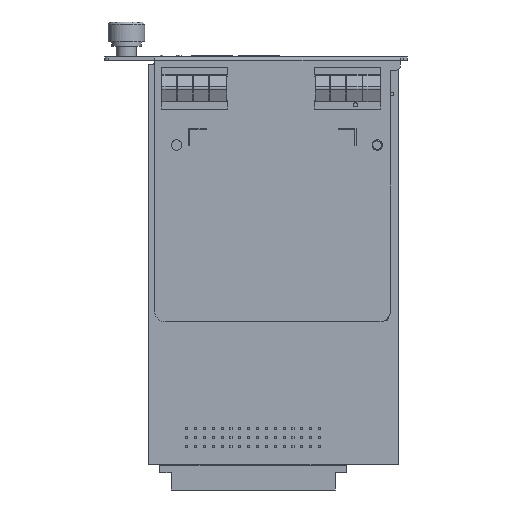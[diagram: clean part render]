
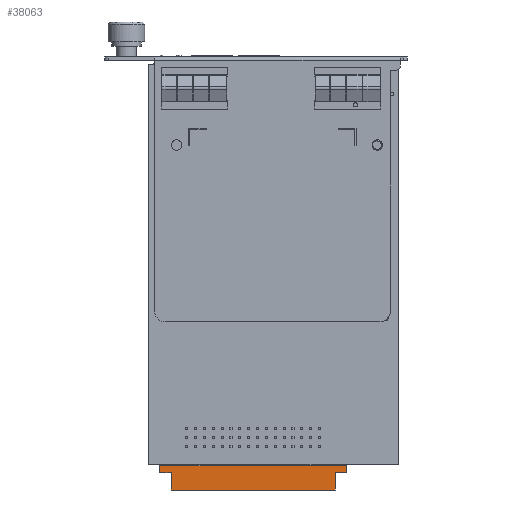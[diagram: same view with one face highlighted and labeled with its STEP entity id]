
A CAD part, front view. The second image highlights one B-rep face of the part: STEP entity #38063.
In plain terms, the highlighted planar face has unit normal (0, -1, 0).
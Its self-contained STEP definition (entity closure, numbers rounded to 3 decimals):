
#8948=DIRECTION('',(0.,0.,1.));
#8949=VECTOR('',#8948,2.1);
#8950=CARTESIAN_POINT('',(20.925,0.3,-58.6));
#8951=LINE('',#8950,#8949);
#9092=DIRECTION('',(0.,0.,-1.));
#9093=VECTOR('',#9092,2.1);
#9094=CARTESIAN_POINT('',(-32.575,0.3,-56.5));
#9095=LINE('',#9094,#9093);
#9100=DIRECTION('',(-1.,0.,0.));
#9101=VECTOR('',#9100,53.5);
#9102=CARTESIAN_POINT('',(20.925,0.3,-56.5));
#9103=LINE('',#9102,#9101);
#9112=DIRECTION('',(-1.,0.,0.));
#9113=VECTOR('',#9112,3.2);
#9114=CARTESIAN_POINT('',(20.925,0.3,-58.6));
#9115=LINE('',#9114,#9113);
#9116=DIRECTION('',(0.,0.,-1.));
#9117=VECTOR('',#9116,4.9);
#9118=CARTESIAN_POINT('',(17.725,0.3,-58.6));
#9119=LINE('',#9118,#9117);
#9120=DIRECTION('',(0.,0.,1.));
#9121=VECTOR('',#9120,4.9);
#9122=CARTESIAN_POINT('',(-29.375,0.3,-63.5));
#9123=LINE('',#9122,#9121);
#9124=DIRECTION('',(-1.,0.,0.));
#9125=VECTOR('',#9124,3.2);
#9126=CARTESIAN_POINT('',(-29.375,0.3,-58.6));
#9127=LINE('',#9126,#9125);
#9192=DIRECTION('',(1.,0.,0.));
#9193=VECTOR('',#9192,47.1);
#9194=CARTESIAN_POINT('',(-29.375,0.3,-63.5));
#9195=LINE('',#9194,#9193);
#19172=CARTESIAN_POINT('',(-29.375,0.3,-58.6));
#19173=VERTEX_POINT('',#19172);
#19180=CARTESIAN_POINT('',(17.725,0.3,-58.6));
#19181=VERTEX_POINT('',#19180);
#19200=CARTESIAN_POINT('',(20.925,0.3,-58.6));
#19201=VERTEX_POINT('',#19200);
#19202=CARTESIAN_POINT('',(17.725,0.3,-63.5));
#19203=VERTEX_POINT('',#19202);
#19204=CARTESIAN_POINT('',(-29.375,0.3,-63.5));
#19205=VERTEX_POINT('',#19204);
#19206=CARTESIAN_POINT('',(-32.575,0.3,-58.6));
#19207=VERTEX_POINT('',#19206);
#19208=CARTESIAN_POINT('',(-32.575,0.3,-56.5));
#19209=VERTEX_POINT('',#19208);
#19210=CARTESIAN_POINT('',(20.925,0.3,-56.5));
#19211=VERTEX_POINT('',#19210);
#38045=CARTESIAN_POINT('',(-5.825,0.3,-60.));
#38046=DIRECTION('',(0.,1.,0.));
#38047=DIRECTION('',(-1.,0.,0.));
#38048=AXIS2_PLACEMENT_3D('',#38045,#38046,#38047);
#38049=PLANE('',#38048);
#38051=ORIENTED_EDGE('',*,*,#38050,.T.);
#38053=ORIENTED_EDGE('',*,*,#38052,.T.);
#38055=ORIENTED_EDGE('',*,*,#38054,.F.);
#38056=ORIENTED_EDGE('',*,*,#37874,.T.);
#38057=ORIENTED_EDGE('',*,*,#37906,.T.);
#38058=ORIENTED_EDGE('',*,*,#38009,.F.);
#38059=ORIENTED_EDGE('',*,*,#38030,.F.);
#38060=ORIENTED_EDGE('',*,*,#37674,.F.);
#38061=EDGE_LOOP('',(#38051,#38053,#38055,#38056,#38057,#38058,#38059,#38060));
#38062=FACE_OUTER_BOUND('',#38061,.F.);
#37674=EDGE_CURVE('',#19201,#19211,#8951,.T.);
#37874=EDGE_CURVE('',#19205,#19173,#9123,.T.);
#37906=EDGE_CURVE('',#19173,#19207,#9127,.T.);
#38009=EDGE_CURVE('',#19209,#19207,#9095,.T.);
#38030=EDGE_CURVE('',#19211,#19209,#9103,.T.);
#38050=EDGE_CURVE('',#19201,#19181,#9115,.T.);
#38052=EDGE_CURVE('',#19181,#19203,#9119,.T.);
#38054=EDGE_CURVE('',#19205,#19203,#9195,.T.);
#38063=ADVANCED_FACE('',(#38062),#38049,.F.);
